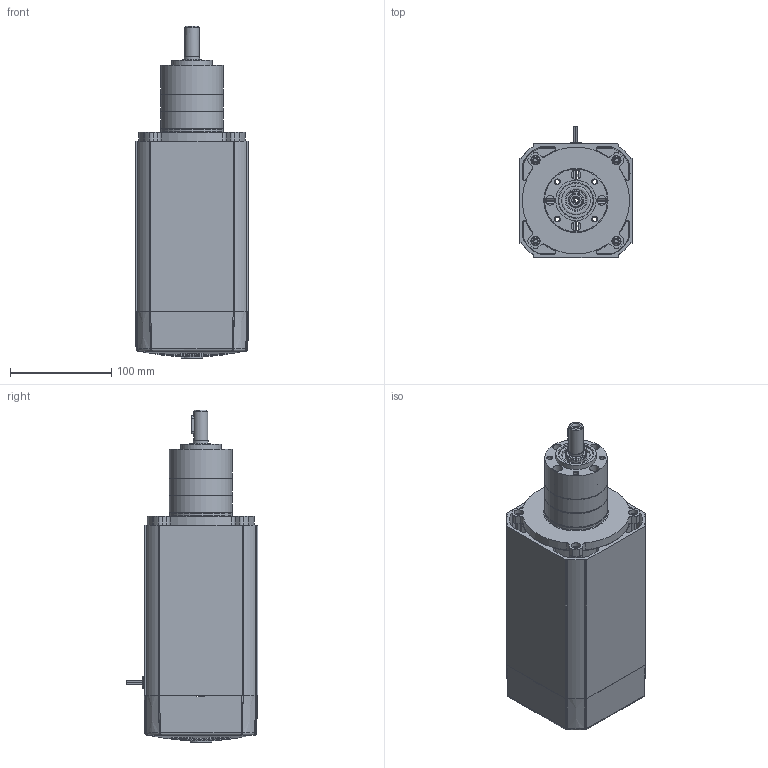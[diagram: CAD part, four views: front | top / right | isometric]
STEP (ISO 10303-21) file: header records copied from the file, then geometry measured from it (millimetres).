
FILE_DESCRIPTION (( 'STEP AP214' ), '1' );
FILE_NAME ('AC10080FC-PL6200i_2S.STEP', '2014-05-06T11:46:58', ( '' ), ( '' ), 'SwSTEP 2.0', 'SolidWorks 2014', '' );
FILE_SCHEMA (( 'AUTOMOTIVE_DESIGN' ));
Length unit declared in the file: inch
Products named in the file (1): AC10080FC-PL6200i_2S
Bounding box: 112.37 x 129.73 x 327.88 mm (x, y, z)
Surface area: 250803.3 mm2 (no closed solid volume)
Topology: 0 solids, 58 shells, 857 faces, 3622 edges, 2766 vertices
Faces by surface type: plane 559, cylinder 227, bspline 29, cone 26, torus 15, sphere 1
Full cylindrical faces by diameter (mm): 1.905 x4, 2 x2, 4.166 x4, 4.5 x4, 5.3 x1, 9.144 x4, 9.5 x4, 11.113 x1, 12.675 x1, 14 x1, 14.3 x1, 15 x1, 21 x1, 21.52 x1, 28.48 x1, 29.369 x1, 35.1 x1, 40 x1, 61.976 x1, 62 x3, 63.5 x1, 100.838 x1
Entity records: 53352 total; most frequent: CARTESIAN_POINT 13275, DIRECTION 6191, ORIENTED_EDGE 5092, EDGE_CURVE 3526, VERTEX_POINT 2749, AXIS2_PLACEMENT_3D 2306, VECTOR 1579, LINE 1579
